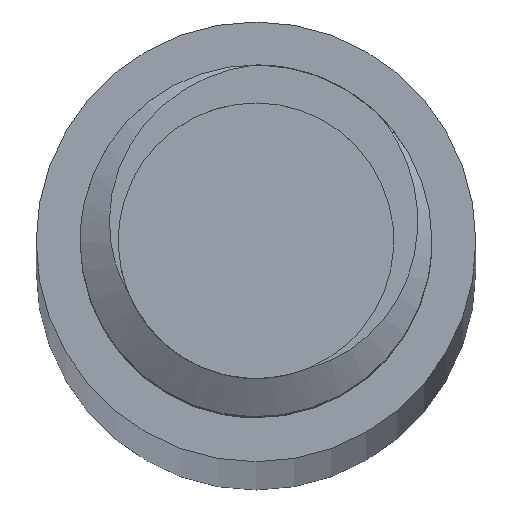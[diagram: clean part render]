
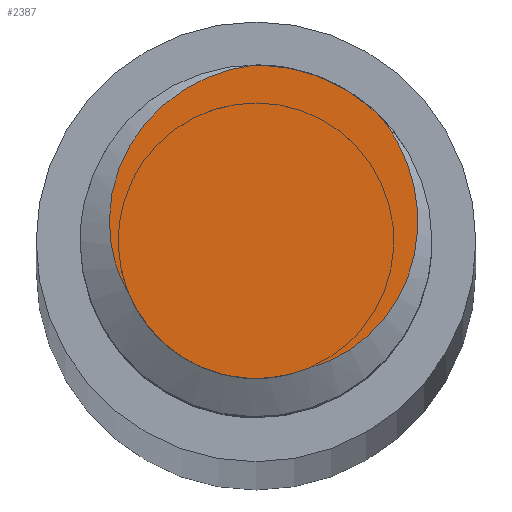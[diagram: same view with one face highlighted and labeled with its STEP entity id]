
A CAD part, top view. The second image highlights one B-rep face of the part: STEP entity #2387.
In plain terms, the highlighted planar face has unit normal (0, 0, 1).
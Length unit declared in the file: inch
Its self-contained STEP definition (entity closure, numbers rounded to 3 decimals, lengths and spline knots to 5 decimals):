
#46 = VERTEX_POINT ( 'NONE', #1603 ) ;
#176 = CARTESIAN_POINT ( 'NONE',  ( 0.07189, 0.01901, -0.3937 ) ) ;
#197 = CARTESIAN_POINT ( 'NONE',  ( -0.05934, 0.0377, -0.3937 ) ) ;
#213 = CARTESIAN_POINT ( 'NONE',  ( -0.03741, 0.06427, -0.3937 ) ) ;
#217 = ORIENTED_EDGE ( 'NONE', *, *, #2011, .T. ) ;
#228 = ORIENTED_EDGE ( 'NONE', *, *, #1278, .T. ) ;
#305 = EDGE_CURVE ( 'NONE', #1626, #46, #928, .T. ) ;
#320 = CARTESIAN_POINT ( 'NONE',  ( 0., 0., -0.3937 ) ) ;
#429 = CARTESIAN_POINT ( 'NONE',  ( 0.0572, -0.03549, -0.3937 ) ) ;
#446 = CIRCLE ( 'NONE', #1998, 0.07874 ) ;
#487 = CARTESIAN_POINT ( 'NONE',  ( 0.06643, -0.02063, -0.3937 ) ) ;
#503 = CARTESIAN_POINT ( 'NONE',  ( -0.04076, -0.04649, -0.3937 ) ) ;
#551 = EDGE_CURVE ( 'NONE', #1848, #1626, #446, .T. ) ;
#586 = ORIENTED_EDGE ( 'NONE', *, *, #551, .T. ) ;
#704 = CARTESIAN_POINT ( 'NONE',  ( -0.02273, 0.07363, -0.3937 ) ) ;
#706 = CARTESIAN_POINT ( 'NONE',  ( 0.04885, -0.04376, -0.3937 ) ) ;
#722 = CARTESIAN_POINT ( 'NONE',  ( -0.06437, -0.00478, -0.3937 ) ) ;
#743 = CARTESIAN_POINT ( 'NONE',  ( -0.01157, 0.07753, -0.3937 ) ) ;
#820 = CARTESIAN_POINT ( 'NONE',  ( -0.057, -0.02361, -0.3937 ) ) ;
#928 = B_SPLINE_CURVE_WITH_KNOTS ( 'NONE', 3,
 ( #3042, #743, #704, #213, #1569, #1888, #2701, #2965, #3616, #197, #1307, #2461, #1326, #1051, #3596, #2181, #2754, #3023, #722, #1869, #2984, #3556 ),
 .UNSPECIFIED., .F., .F.,
 ( 4, 2, 2, 2, 2, 2, 2, 2, 2, 2, 4 ),
 ( 0., 0.25, 0.375, 0.4375, 0.5, 0.625, 0.6875, 0.75, 0.8125, 0.875, 1. ),
 .UNSPECIFIED. ) ;
#992 = AXIS2_PLACEMENT_3D ( 'NONE', #2609, #1473, #2311 ) ;
#1051 = CARTESIAN_POINT ( 'NONE',  ( -0.06535, 0.01542, -0.3937 ) ) ;
#1070 = CARTESIAN_POINT ( 'NONE',  ( -0.03087, -0.05356, -0.3937 ) ) ;
#1071 = CARTESIAN_POINT ( 'NONE',  ( 0.06864, -0.0152, -0.3937 ) ) ;
#1087 = CARTESIAN_POINT ( 'NONE',  ( -0.04898, -0.03758, -0.3937 ) ) ;
#1142 = CARTESIAN_POINT ( 'NONE',  ( -0.03762, -0.04905, -0.3937 ) ) ;
#1177 = FACE_OUTER_BOUND ( 'NONE', #2146, .T. ) ;
#1278 = EDGE_CURVE ( 'NONE', #2465, #1848, #3357, .T. ) ;
#1287 = CARTESIAN_POINT ( 'NONE',  ( 0.06301, 0.04663, -0.3937 ) ) ;
#1307 = CARTESIAN_POINT ( 'NONE',  ( -0.06158, 0.03237, -0.3937 ) ) ;
#1326 = CARTESIAN_POINT ( 'NONE',  ( -0.06452, 0.02114, -0.3937 ) ) ;
#1364 = B_SPLINE_CURVE_WITH_KNOTS ( 'NONE', 3,
 ( #820, #1923, #3634, #1087, #2533, #2753, #503, #1142, #1070, #2199, #3041, #2514, #1647, #3330, #2824 ),
 .UNSPECIFIED., .F., .F.,
 ( 4, 1, 2, 2, 2, 2, 2, 4 ),
 ( 0., 0.125, 0.1875, 0.25, 0.375, 0.5, 0.75, 1. ),
 .UNSPECIFIED. ) ;
#1365 = CARTESIAN_POINT ( 'NONE',  ( 0.03717, -0.05231, -0.3937 ) ) ;
#1381 = CARTESIAN_POINT ( 'NONE',  ( 0.05568, 0.05568, -0.3937 ) ) ;
#1399 = DIRECTION ( 'NONE',  ( 1., 0., 0. ) ) ;
#1473 = DIRECTION ( 'NONE',  ( 0., 0., -1. ) ) ;
#1546 = CARTESIAN_POINT ( 'NONE',  ( 0.02361, -0.057, -0.3937 ) ) ;
#1569 = CARTESIAN_POINT ( 'NONE',  ( -0.04183, 0.06068, -0.3937 ) ) ;
#1592 = CARTESIAN_POINT ( 'NONE',  ( 0.04549, -0.04661, -0.3937 ) ) ;
#1603 = CARTESIAN_POINT ( 'NONE',  ( -0.057, -0.02361, -0.3937 ) ) ;
#1613 = CARTESIAN_POINT ( 'NONE',  ( 0.07216, 0.0016, -0.3937 ) ) ;
#1626 = VERTEX_POINT ( 'NONE', #3544 ) ;
#1647 = CARTESIAN_POINT ( 'NONE',  ( 0.00815, -0.0617, -0.3937 ) ) ;
#1752 = ORIENTED_EDGE ( 'NONE', *, *, #305, .T. ) ;
#1848 = VERTEX_POINT ( 'NONE', #1381 ) ;
#1869 = CARTESIAN_POINT ( 'NONE',  ( -0.0622, -0.01326, -0.3937 ) ) ;
#1870 = CARTESIAN_POINT ( 'NONE',  ( 0.05568, 0.05568, -0.3937 ) ) ;
#1888 = CARTESIAN_POINT ( 'NONE',  ( -0.04801, 0.05432, -0.3937 ) ) ;
#1889 = CARTESIAN_POINT ( 'NONE',  ( 0.05105, -0.04176, -0.3937 ) ) ;
#1923 = CARTESIAN_POINT ( 'NONE',  ( -0.05543, -0.02739, -0.3937 ) ) ;
#1998 = AXIS2_PLACEMENT_3D ( 'NONE', #320, #3671, #1399 ) ;
#2011 = EDGE_CURVE ( 'NONE', #46, #2465, #1364, .T. ) ;
#2146 = EDGE_LOOP ( 'NONE', ( #586, #1752, #217, #228 ) ) ;
#2181 = CARTESIAN_POINT ( 'NONE',  ( -0.06568, 0.00662, -0.3937 ) ) ;
#2199 = CARTESIAN_POINT ( 'NONE',  ( -0.02737, -0.05544, -0.3937 ) ) ;
#2311 = DIRECTION ( 'NONE',  ( 0., -1., 0. ) ) ;
#2387 = ADVANCED_FACE ( 'NONE', ( #1177 ), #2845, .F. ) ;
#2461 = CARTESIAN_POINT ( 'NONE',  ( -0.06393, 0.02397, -0.3937 ) ) ;
#2462 = CARTESIAN_POINT ( 'NONE',  ( 0.06814, 0.036, -0.3937 ) ) ;
#2465 = VERTEX_POINT ( 'NONE', #1546 ) ;
#2514 = CARTESIAN_POINT ( 'NONE',  ( -0.00821, -0.06169, -0.3937 ) ) ;
#2533 = CARTESIAN_POINT ( 'NONE',  ( -0.04641, -0.0407, -0.3937 ) ) ;
#2609 = CARTESIAN_POINT ( 'NONE',  ( 0., 0., -0.3937 ) ) ;
#2701 = CARTESIAN_POINT ( 'NONE',  ( -0.04991, 0.05211, -0.3937 ) ) ;
#2723 = CARTESIAN_POINT ( 'NONE',  ( 0.05218, -0.04066, -0.3937 ) ) ;
#2753 = CARTESIAN_POINT ( 'NONE',  ( -0.04501, -0.04224, -0.3937 ) ) ;
#2754 = CARTESIAN_POINT ( 'NONE',  ( -0.06554, 0.0037, -0.3937 ) ) ;
#2755 = CARTESIAN_POINT ( 'NONE',  ( 0.02361, -0.057, -0.3937 ) ) ;
#2775 = CARTESIAN_POINT ( 'NONE',  ( 0.07139, -0.00411, -0.3937 ) ) ;
#2824 = CARTESIAN_POINT ( 'NONE',  ( 0.02361, -0.057, -0.3937 ) ) ;
#2845 = PLANE ( 'NONE',  #992 ) ;
#2965 = CARTESIAN_POINT ( 'NONE',  ( -0.0534, 0.04754, -0.3937 ) ) ;
#2984 = CARTESIAN_POINT ( 'NONE',  ( -0.05998, -0.01859, -0.3937 ) ) ;
#3023 = CARTESIAN_POINT ( 'NONE',  ( -0.06488, -0.00204, -0.3937 ) ) ;
#3041 = CARTESIAN_POINT ( 'NONE',  ( -0.01607, -0.06012, -0.3937 ) ) ;
#3042 = CARTESIAN_POINT ( 'NONE',  ( 0., 0.07874, -0.3937 ) ) ;
#3271 = CARTESIAN_POINT ( 'NONE',  ( 0.07083, -0.00692, -0.3937 ) ) ;
#3290 = CARTESIAN_POINT ( 'NONE',  ( 0.07249, 0.01322, -0.3937 ) ) ;
#3330 = CARTESIAN_POINT ( 'NONE',  ( 0.01603, -0.06013, -0.3937 ) ) ;
#3332 = CARTESIAN_POINT ( 'NONE',  ( 0.06067, -0.03083, -0.3937 ) ) ;
#3357 = B_SPLINE_CURVE_WITH_KNOTS ( 'NONE', 3,
 ( #2755, #3617, #1365, #1592, #706, #1889, #2723, #429, #3332, #487, #1071, #3271, #2775, #1613, #3636, #3290, #176, #2462, #1287, #1870 ),
 .UNSPECIFIED., .F., .F.,
 ( 4, 1, 1, 2, 2, 2, 2, 2, 2, 2, 4 ),
 ( 0., 0.125, 0.1875, 0.21875, 0.25, 0.375, 0.5, 0.5625, 0.625, 0.75, 1. ),
 .UNSPECIFIED. ) ;
#3544 = CARTESIAN_POINT ( 'NONE',  ( 0., 0.07874, -0.3937 ) ) ;
#3556 = CARTESIAN_POINT ( 'NONE',  ( -0.057, -0.02361, -0.3937 ) ) ;
#3596 = CARTESIAN_POINT ( 'NONE',  ( -0.06558, 0.01258, -0.3937 ) ) ;
#3616 = CARTESIAN_POINT ( 'NONE',  ( -0.05495, 0.04523, -0.3937 ) ) ;
#3617 = CARTESIAN_POINT ( 'NONE',  ( 0.02924, -0.05556, -0.3937 ) ) ;
#3634 = CARTESIAN_POINT ( 'NONE',  ( -0.05258, -0.03274, -0.3937 ) ) ;
#3636 = CARTESIAN_POINT ( 'NONE',  ( 0.07237, 0.00457, -0.3937 ) ) ;
#3671 = DIRECTION ( 'NONE',  ( 0., 0., 1. ) ) ;
